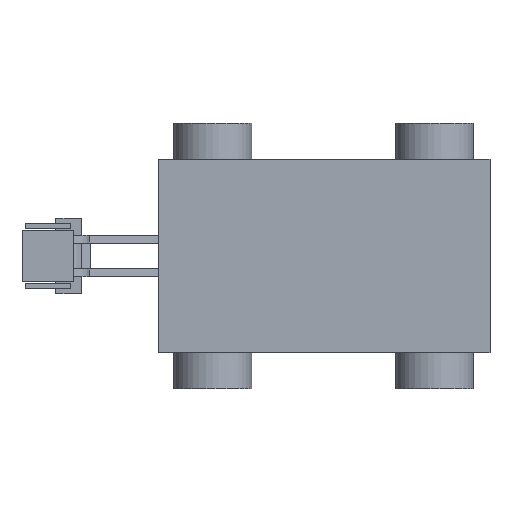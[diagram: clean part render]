
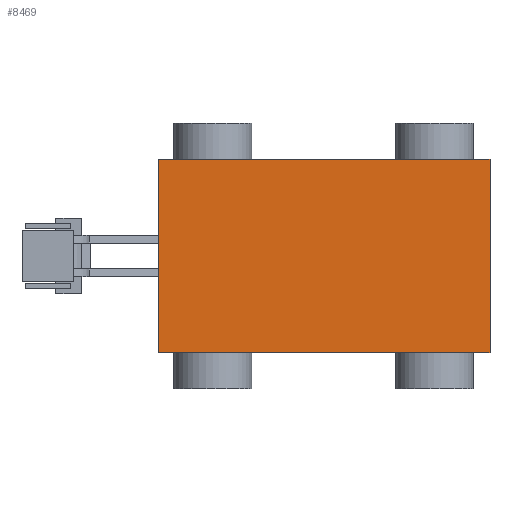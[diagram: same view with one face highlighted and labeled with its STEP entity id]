
A CAD part, front view. The second image highlights one B-rep face of the part: STEP entity #8469.
In plain terms, the highlighted planar face has unit normal (0, -1, 0).
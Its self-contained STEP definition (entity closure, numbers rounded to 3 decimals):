
#460 = CARTESIAN_POINT ( 'NONE',  ( 255.8, 0., 149. ) ) ;
#908 = VECTOR ( 'NONE', #7756, 1000. ) ;
#1031 = LINE ( 'NONE', #4408, #908 ) ;
#1117 = ORIENTED_EDGE ( 'NONE', *, *, #6730, .T. ) ;
#1241 = VECTOR ( 'NONE', #5761, 1000. ) ;
#1409 = ORIENTED_EDGE ( 'NONE', *, *, #9083, .T. ) ;
#1565 = EDGE_CURVE ( 'NONE', #5892, #9178, #2334, .T. ) ;
#1691 = VECTOR ( 'NONE', #10805, 1000. ) ;
#2203 = ORIENTED_EDGE ( 'NONE', *, *, #6584, .F. ) ;
#2334 = LINE ( 'NONE', #9714, #6975 ) ;
#2528 = PLANE ( 'NONE',  #5621 ) ;
#3297 = CARTESIAN_POINT ( 'NONE',  ( 0., 0., 149. ) ) ;
#3728 = ORIENTED_EDGE ( 'NONE', *, *, #1565, .F. ) ;
#4408 = CARTESIAN_POINT ( 'NONE',  ( 0., 0., 0. ) ) ;
#4631 = VERTEX_POINT ( 'NONE', #5829 ) ;
#4899 = CARTESIAN_POINT ( 'NONE',  ( 255.8, 0., 0. ) ) ;
#5060 = DIRECTION ( 'NONE',  ( 0., 1., 0. ) ) ;
#5621 = AXIS2_PLACEMENT_3D ( 'NONE', #7592, #5060, #10140 ) ;
#5761 = DIRECTION ( 'NONE',  ( 1., 0., 0. ) ) ;
#5829 = CARTESIAN_POINT ( 'NONE',  ( 0., 0., 149. ) ) ;
#5892 = VERTEX_POINT ( 'NONE', #460 ) ;
#6219 = EDGE_LOOP ( 'NONE', ( #1117, #3728, #2203, #1409 ) ) ;
#6584 = EDGE_CURVE ( 'NONE', #4631, #5892, #10847, .T. ) ;
#6720 = CARTESIAN_POINT ( 'NONE',  ( 0., 0., 149. ) ) ;
#6730 = EDGE_CURVE ( 'NONE', #10043, #9178, #1031, .T. ) ;
#6975 = VECTOR ( 'NONE', #8996, 1000. ) ;
#7431 = LINE ( 'NONE', #6720, #1691 ) ;
#7592 = CARTESIAN_POINT ( 'NONE',  ( 0., 0., 149. ) ) ;
#7756 = DIRECTION ( 'NONE',  ( 1., 0., 0. ) ) ;
#8340 = CARTESIAN_POINT ( 'NONE',  ( 0., 0., 0. ) ) ;
#8469 = ADVANCED_FACE ( 'NONE', ( #10192 ), #2528, .F. ) ;
#8996 = DIRECTION ( 'NONE',  ( 0., 0., -1. ) ) ;
#9083 = EDGE_CURVE ( 'NONE', #4631, #10043, #7431, .T. ) ;
#9178 = VERTEX_POINT ( 'NONE', #4899 ) ;
#9714 = CARTESIAN_POINT ( 'NONE',  ( 255.8, 0., 149. ) ) ;
#10043 = VERTEX_POINT ( 'NONE', #8340 ) ;
#10140 = DIRECTION ( 'NONE',  ( 0., 0., 1. ) ) ;
#10192 = FACE_OUTER_BOUND ( 'NONE', #6219, .T. ) ;
#10805 = DIRECTION ( 'NONE',  ( 0., 0., -1. ) ) ;
#10847 = LINE ( 'NONE', #3297, #1241 ) ;
